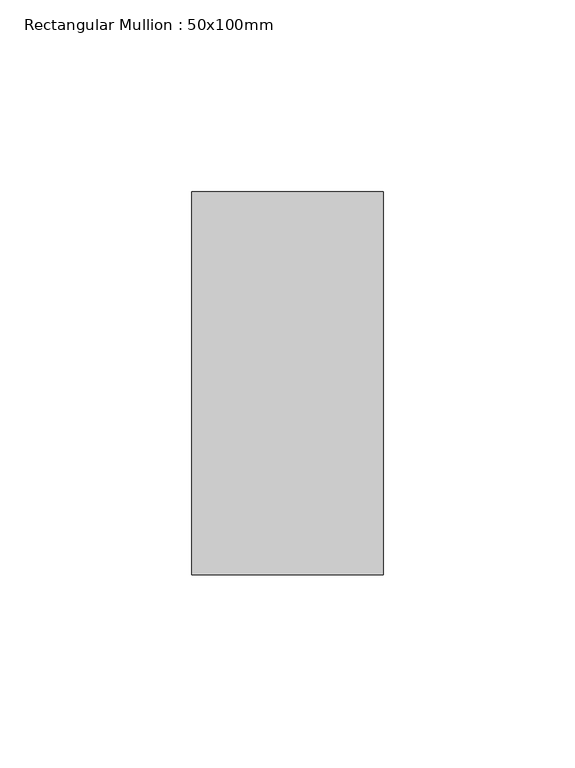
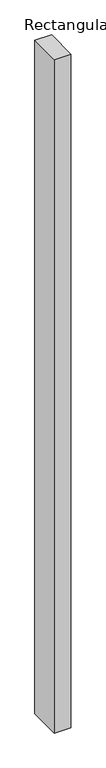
"""IFC4 building model written with IfcOpenShell, lengths in millimetres: member geometry, Rectangular Mullion : 50x100mm."""

import ifcopenshell
import ifcopenshell.guid

model = None  # the IFC model being written
_history = None  # IfcOwnerHistory: only IFC2X3 demands one
_inside = {}  # id of a spatial element -> (the spatial element, [elements in it])
_under = {}  # id of a project, library or spatial element -> (it, [spatial elements below it])
_declared = {}  # id of a project -> (the project, [libraries it declares])
_typed = {}  # id of a type object -> (the type object, [elements of that type])
_made_of = {}  # id of a material, layer set ... -> (it, [elements and type objects made of it])


def new_model(schema):
    """Start an empty IFC model of exactly this schema.

    Asked for "IFC4X3", IfcOpenShell would pick the latest addendum, in which some entities
    have other attributes; the version numbers below select the first issue.
    IFC2X3 requires an IfcOwnerHistory on every rooted entity: one is made here for all.
    """
    global model, _history
    if schema == "IFC4X3":
        model = ifcopenshell.file(schema_version=(4, 3, 0, 0))
    else:
        model = ifcopenshell.file(schema=schema)
    _inside.clear()
    _under.clear()
    _declared.clear()
    _typed.clear()
    _made_of.clear()
    _history = None
    if model.schema == "IFC2X3":
        org = make("IfcOrganization", Name="unknown")
        user = make(
            "IfcPersonAndOrganization",
            ThePerson=make("IfcPerson", FamilyName="unknown"),
            TheOrganization=org,
        )
        app = make(
            "IfcApplication",
            ApplicationDeveloper=org,
            Version="unknown",
            ApplicationFullName="unknown",
            ApplicationIdentifier="unknown",
        )
        _history = make(
            "IfcOwnerHistory",
            OwningUser=user,
            OwningApplication=app,
            ChangeAction="ADDED",
            CreationDate=0,
        )
    return model


def make(cls, **values):
    """One entity of the class cls with the attributes given. An attribute that is None is left unset."""
    return model.create_entity(
        cls, **{name: value for name, value in values.items() if value is not None}
    )


def rooted(cls, **values):
    """An entity with a GlobalId (a new one), such as an element, a storey or a relation."""
    return make(cls, GlobalId=ifcopenshell.guid.new(), OwnerHistory=_history, **values)


def si_unit(unit_type, name, prefix=None):
    """IfcSIUnit, for example si_unit("LENGTHUNIT", "METRE", prefix="MILLI")."""
    return make("IfcSIUnit", UnitType=unit_type, Prefix=prefix, Name=name)


def assignment(units):
    """IfcUnitAssignment: the units of a project."""
    return None if units is None else make("IfcUnitAssignment", Units=units)


def point(xyz):
    """IfcCartesianPoint."""
    return None if xyz is None else make("IfcCartesianPoint", Coordinates=xyz)


def direction(xyz):
    """IfcDirection."""
    return None if xyz is None else make("IfcDirection", DirectionRatios=xyz)


def frame(location, z_axis=None, x_axis=None):
    """IfcAxis2Placement3D, a coordinate frame: its origin and axes. An axis left out is left unset."""
    return make(
        "IfcAxis2Placement3D",
        Location=point(location),
        Axis=direction(z_axis),
        RefDirection=direction(x_axis),
    )


def origin():
    """The frame at (0, 0, 0) with its axes left unset."""
    return frame((0.0, 0.0, 0.0))


def place(relative_to, where):
    """IfcLocalPlacement: puts the frame where relative to a parent placement (None: the world)."""
    return make(
        "IfcLocalPlacement", PlacementRelTo=relative_to, RelativePlacement=where
    )


def context(
    kind, dimensions, precision=None, world=None, true_north=None, identifier=None
):
    """IfcGeometricRepresentationContext, for example the 3D "Model" context."""
    return make(
        "IfcGeometricRepresentationContext",
        ContextIdentifier=identifier,
        ContextType=kind,
        CoordinateSpaceDimension=dimensions,
        Precision=precision,
        WorldCoordinateSystem=world,
        TrueNorth=true_north,
    )


def project(units=None, contexts=None):
    """IfcProject with its units and contexts."""
    return rooted(
        "IfcProject",
        Name="project",
        RepresentationContexts=contexts,
        UnitsInContext=assignment(units),
    )


def spatial(cls, under=None, at=None, **own):
    """A site, building, storey or space (cls), placed at a placement, below another one or the project."""
    s = rooted(cls, ObjectPlacement=at, **own)
    if under is not None:
        _under.setdefault(under.id(), (under, []))[1].append(s)
    return s


def polyline(points):
    """IfcPolyline through the points."""
    return make("IfcPolyline", Points=[point(p) for p in points])


def outline(outer, holes=None, kind="AREA"):
    """IfcArbitraryClosedProfileDef: a profile drawn as a closed curve; with holes, ...WithVoids."""
    if holes is None:
        return make("IfcArbitraryClosedProfileDef", ProfileType=kind, OuterCurve=outer)
    return make(
        "IfcArbitraryProfileDefWithVoids",
        ProfileType=kind,
        OuterCurve=outer,
        InnerCurves=holes,
    )


def extrude(swept, where, along, depth):
    """IfcExtrudedAreaSolid: the profile swept, set in the frame where, extruded along a direction by depth."""
    return make(
        "IfcExtrudedAreaSolid",
        SweptArea=swept,
        Position=where,
        ExtrudedDirection=direction(along),
        Depth=depth,
    )


def shape(context_of_items, identifier, shape_type, items):
    """IfcShapeRepresentation: the items that make up one representation, for example the "Body"."""
    return make(
        "IfcShapeRepresentation",
        ContextOfItems=context_of_items,
        RepresentationIdentifier=identifier,
        RepresentationType=shape_type,
        Items=items,
    )


def source(mapping_origin, context_of_items, identifier, shape_type, items):
    """IfcRepresentationMap: a shape defined once, which mapped items show again and again."""
    return make(
        "IfcRepresentationMap",
        MappingOrigin=mapping_origin,
        MappedRepresentation=shape(context_of_items, identifier, shape_type, items),
    )


def transform(
    local_origin,
    x_axis=None,
    y_axis=None,
    z_axis=None,
    scale=None,
    scale2=None,
    scale3=None,
    uniform=True,
):
    """IfcCartesianTransformationOperator3D, or its non-uniform kind. x_axis, y_axis, z_axis: its Axis1, 2, 3."""
    if uniform:
        return make(
            "IfcCartesianTransformationOperator3D",
            Axis1=direction(x_axis),
            Axis2=direction(y_axis),
            LocalOrigin=point(local_origin),
            Scale=scale,
            Axis3=direction(z_axis),
        )
    return make(
        "IfcCartesianTransformationOperator3DnonUniform",
        Axis1=direction(x_axis),
        Axis2=direction(y_axis),
        LocalOrigin=point(local_origin),
        Scale=scale,
        Axis3=direction(z_axis),
        Scale2=scale2,
        Scale3=scale3,
    )


def mapped(mapping_source, mapping_target):
    """IfcMappedItem: shows the shape of a source again, moved by a transform."""
    return make(
        "IfcMappedItem", MappingSource=mapping_source, MappingTarget=mapping_target
    )


def made_of(thing, what):
    """Note that an element or type object is made of a material, layer set ...; save() writes the relation."""
    if what is not None:
        _made_of.setdefault(what.id(), (what, []))[1].append(thing)
    return thing


def element(
    cls,
    number,
    at=None,
    inside=None,
    cuts=None,
    type_object=None,
    material=None,
    context=None,
    identifier="Body",
    shape_type=None,
    held_by="IfcProductDefinitionShape",
    body=None,
    shapes=None,
    **own,
):
    """One element of the class cls, such as IfcWall. Its Tag is "e" and its number.

    at: its placement. inside: the storey or other place that contains it. cuts: it is an
    opening in that element (IfcRelVoidsElement). A single representation is given by context,
    identifier, shape_type and body (its items); several are given by shapes. held_by: the class
    of the entity that holds the representations. save() writes the other relations.
    """
    e = rooted(cls, Tag="e%d" % number, ObjectPlacement=at, **own)
    if body is not None:
        shapes = [shape(context, identifier, shape_type, body)]
    if shapes is not None:
        e.Representation = make(held_by, Representations=shapes)
    if inside is not None:
        _inside.setdefault(inside.id(), (inside, []))[1].append(e)
    if cuts is not None:
        rooted(
            "IfcRelVoidsElement", RelatingBuildingElement=cuts, RelatedOpeningElement=e
        )
    if type_object is not None:
        _typed.setdefault(type_object.id(), (type_object, []))[1].append(e)
    return made_of(e, material)


def aggregate(whole, parts):
    """IfcRelAggregates: a whole, such as a stair, and the parts it consists of."""
    return rooted("IfcRelAggregates", RelatingObject=whole, RelatedObjects=parts)


def save(model, path):
    """Write the relations noted so far, then the file.

    IfcRelAggregates (storeys below a building ...), IfcRelContainedInSpatialStructure (elements
    in a storey), IfcRelDefinesByType, IfcRelAssociatesMaterial and IfcRelDeclares: one each for
    every whole, place, type object, material and project.
    """
    for whole, parts in _under.values():
        aggregate(whole, parts)
    for where, things in _inside.values():
        rooted(
            "IfcRelContainedInSpatialStructure",
            RelatedElements=things,
            RelatingStructure=where,
        )
    for kind, things in _typed.values():
        rooted("IfcRelDefinesByType", RelatedObjects=things, RelatingType=kind)
    for what, things in _made_of.values():
        rooted("IfcRelAssociatesMaterial", RelatedObjects=things, RelatingMaterial=what)
    for by, libraries in _declared.values():
        rooted("IfcRelDeclares", RelatingContext=by, RelatedDefinitions=libraries)
    model.write(path)


def rectangular_mullion_50x100mm_617d3272(model_context):
    return source(origin(), model_context, "Body", "SweptSolid", [
        extrude(outline(polyline([(0.0, 50.0), (0.0, -50.0), (-50.0, -50.0), (-50.0, 50.0), (0.0, 50.0)])), frame((0.0, 0.0, -2130.0), z_axis=(0.0, 0.0, 1.0), x_axis=(1.0, 0.0, 0.0)), (0.0, 0.0, 1.0), 2130.0),
    ])


if __name__ == "__main__":
    model = new_model("IFC4")
    model_context = context("Model", 3, world=origin())
    ifc_project = project(units=[si_unit("LENGTHUNIT", "METRE", prefix="MILLI")], contexts=[model_context])
    site = spatial("IfcSite", under=ifc_project)
    building = spatial("IfcBuilding", under=site)
    placement = place(None, origin())
    rectangular_mullion_50x100mm_shape = rectangular_mullion_50x100mm_617d3272(model_context)
    element("IfcMember", 1, ObjectType="Rectangular Mullion : 50x100mm", at=placement, inside=building, context=model_context, shape_type="MappedRepresentation", body=[
        mapped(rectangular_mullion_50x100mm_shape, transform((0.0, 0.0, 0.0), x_axis=(1.0, 0.0, 0.0), y_axis=(0.0, 1.0, 0.0), z_axis=(0.0, 0.0, 1.0))),
    ])
    save(model, "model.ifc")
